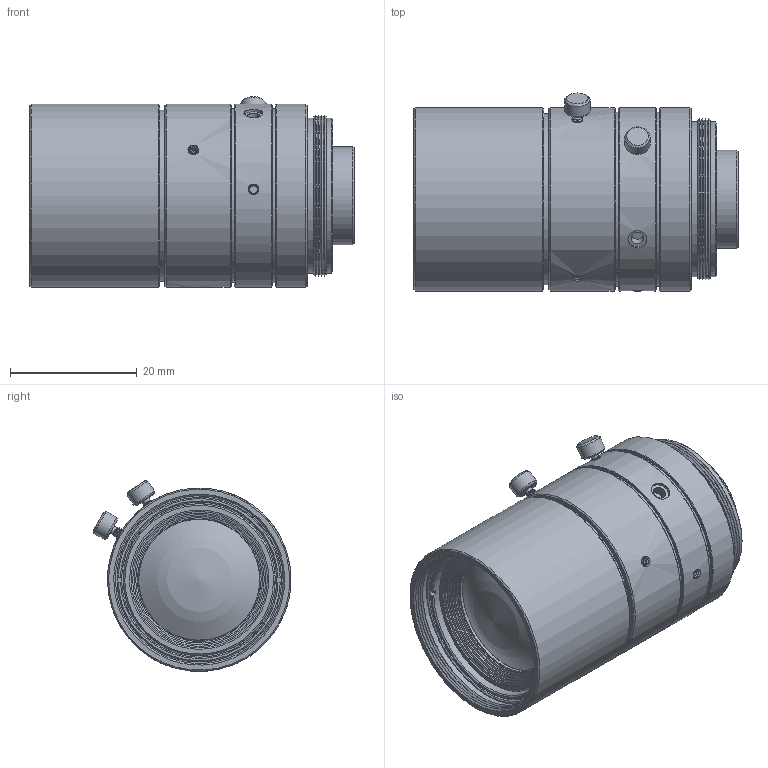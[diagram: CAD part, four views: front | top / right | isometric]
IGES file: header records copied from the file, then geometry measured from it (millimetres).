
Global section: file name: 153-13654_Objektiv LOC-12-HD-27x0,5; native system: Autodesk Inventor 2018; preprocessor: unknown; author: S.S.; date: 20200326.115712; units: millimetre
Bounding box: 51.27 x 31.28 x 30.16 mm (x, y, z)
Volume: 26723.9 mm3; surface area: 10823.2 mm2
Topology: 1 solids, 11 shells, 308 faces, 832 edges, 561 vertices
Faces by surface type: bspline 308
